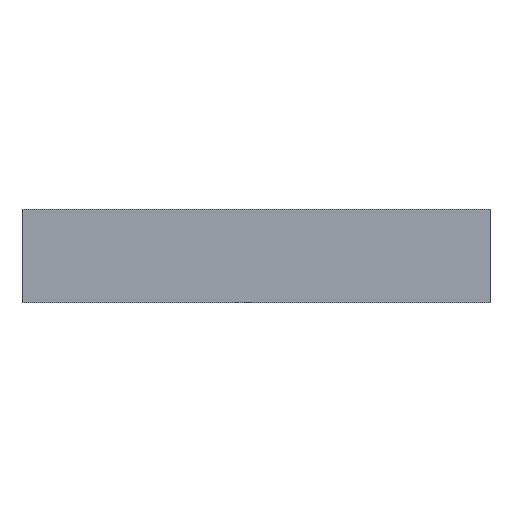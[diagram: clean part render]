
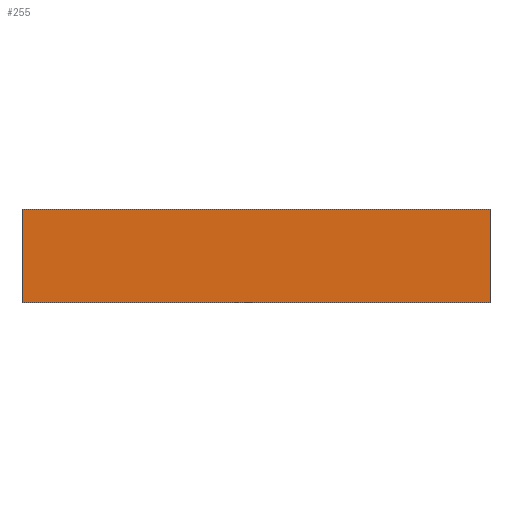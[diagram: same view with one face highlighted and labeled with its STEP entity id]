
A CAD part, front view. The second image highlights one B-rep face of the part: STEP entity #255.
In plain terms, the highlighted planar face has unit normal (0, -1, 0).
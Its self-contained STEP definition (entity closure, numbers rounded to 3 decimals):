
#39 = EDGE_CURVE('',#40,#42,#44,.T.);
#40 = VERTEX_POINT('',#41);
#41 = CARTESIAN_POINT('',(-34.,-9.75,49.4));
#42 = VERTEX_POINT('',#43);
#43 = CARTESIAN_POINT('',(-34.,-9.75,49.6));
#44 = SURFACE_CURVE('',#45,(#49,#61),.PCURVE_S1.);
#45 = LINE('',#46,#47);
#46 = CARTESIAN_POINT('',(-34.,-9.75,49.4));
#47 = VECTOR('',#48,1.);
#48 = DIRECTION('',(0.,0.,1.));
#49 = PCURVE('',#50,#55);
#50 = PLANE('',#51);
#51 = AXIS2_PLACEMENT_3D('',#52,#53,#54);
#52 = CARTESIAN_POINT('',(-34.,-9.75,49.4));
#53 = DIRECTION('',(1.,0.,0.));
#54 = DIRECTION('',(0.,0.,1.));
#55 = DEFINITIONAL_REPRESENTATION('',(#56),#60);
#56 = LINE('',#57,#58);
#57 = CARTESIAN_POINT('',(0.,0.));
#58 = VECTOR('',#59,1.);
#59 = DIRECTION('',(1.,0.));
#60 = ( GEOMETRIC_REPRESENTATION_CONTEXT(2) 
PARAMETRIC_REPRESENTATION_CONTEXT() REPRESENTATION_CONTEXT('2D SPACE',''
  ) );
#61 = PCURVE('',#62,#67);
#62 = PLANE('',#63);
#63 = AXIS2_PLACEMENT_3D('',#64,#65,#66);
#64 = CARTESIAN_POINT('',(-34.,-9.75,49.4));
#65 = DIRECTION('',(0.,1.,0.));
#66 = DIRECTION('',(0.,0.,1.));
#67 = DEFINITIONAL_REPRESENTATION('',(#68),#72);
#68 = LINE('',#69,#70);
#69 = CARTESIAN_POINT('',(0.,0.));
#70 = VECTOR('',#71,1.);
#71 = DIRECTION('',(1.,0.));
#72 = ( GEOMETRIC_REPRESENTATION_CONTEXT(2) 
PARAMETRIC_REPRESENTATION_CONTEXT() REPRESENTATION_CONTEXT('2D SPACE',''
  ) );
#90 = PLANE('',#91);
#91 = AXIS2_PLACEMENT_3D('',#92,#93,#94);
#92 = CARTESIAN_POINT('',(-34.,-9.75,49.4));
#93 = DIRECTION('',(0.,0.,1.));
#94 = DIRECTION('',(1.,0.,0.));
#144 = PLANE('',#145);
#145 = AXIS2_PLACEMENT_3D('',#146,#147,#148);
#146 = CARTESIAN_POINT('',(-34.,-9.75,49.6));
#147 = DIRECTION('',(0.,0.,1.));
#148 = DIRECTION('',(1.,0.,0.));
#159 = EDGE_CURVE('',#160,#162,#164,.T.);
#160 = VERTEX_POINT('',#161);
#161 = CARTESIAN_POINT('',(-33.,-9.75,49.4));
#162 = VERTEX_POINT('',#163);
#163 = CARTESIAN_POINT('',(-33.,-9.75,49.6));
#164 = SURFACE_CURVE('',#165,(#169,#181),.PCURVE_S1.);
#165 = LINE('',#166,#167);
#166 = CARTESIAN_POINT('',(-33.,-9.75,49.4));
#167 = VECTOR('',#168,1.);
#168 = DIRECTION('',(0.,0.,1.));
#169 = PCURVE('',#170,#175);
#170 = PLANE('',#171);
#171 = AXIS2_PLACEMENT_3D('',#172,#173,#174);
#172 = CARTESIAN_POINT('',(-33.,-9.75,49.4));
#173 = DIRECTION('',(1.,0.,0.));
#174 = DIRECTION('',(0.,0.,1.));
#175 = DEFINITIONAL_REPRESENTATION('',(#176),#180);
#176 = LINE('',#177,#178);
#177 = CARTESIAN_POINT('',(0.,0.));
#178 = VECTOR('',#179,1.);
#179 = DIRECTION('',(1.,0.));
#180 = ( GEOMETRIC_REPRESENTATION_CONTEXT(2) 
PARAMETRIC_REPRESENTATION_CONTEXT() REPRESENTATION_CONTEXT('2D SPACE',''
  ) );
#181 = PCURVE('',#62,#182);
#182 = DEFINITIONAL_REPRESENTATION('',(#183),#187);
#183 = LINE('',#184,#185);
#184 = CARTESIAN_POINT('',(0.,1.));
#185 = VECTOR('',#186,1.);
#186 = DIRECTION('',(1.,0.));
#187 = ( GEOMETRIC_REPRESENTATION_CONTEXT(2) 
PARAMETRIC_REPRESENTATION_CONTEXT() REPRESENTATION_CONTEXT('2D SPACE',''
  ) );
#255 = ADVANCED_FACE('',(#256),#62,.F.);
#256 = FACE_BOUND('',#257,.F.);
#257 = EDGE_LOOP('',(#258,#279,#280,#301));
#258 = ORIENTED_EDGE('',*,*,#259,.F.);
#259 = EDGE_CURVE('',#40,#160,#260,.T.);
#260 = SURFACE_CURVE('',#261,(#265,#272),.PCURVE_S1.);
#261 = LINE('',#262,#263);
#262 = CARTESIAN_POINT('',(-34.,-9.75,49.4));
#263 = VECTOR('',#264,1.);
#264 = DIRECTION('',(1.,0.,0.));
#265 = PCURVE('',#62,#266);
#266 = DEFINITIONAL_REPRESENTATION('',(#267),#271);
#267 = LINE('',#268,#269);
#268 = CARTESIAN_POINT('',(0.,0.));
#269 = VECTOR('',#270,1.);
#270 = DIRECTION('',(0.,1.));
#271 = ( GEOMETRIC_REPRESENTATION_CONTEXT(2) 
PARAMETRIC_REPRESENTATION_CONTEXT() REPRESENTATION_CONTEXT('2D SPACE',''
  ) );
#272 = PCURVE('',#90,#273);
#273 = DEFINITIONAL_REPRESENTATION('',(#274),#278);
#274 = LINE('',#275,#276);
#275 = CARTESIAN_POINT('',(0.,0.));
#276 = VECTOR('',#277,1.);
#277 = DIRECTION('',(1.,0.));
#278 = ( GEOMETRIC_REPRESENTATION_CONTEXT(2) 
PARAMETRIC_REPRESENTATION_CONTEXT() REPRESENTATION_CONTEXT('2D SPACE',''
  ) );
#279 = ORIENTED_EDGE('',*,*,#39,.T.);
#280 = ORIENTED_EDGE('',*,*,#281,.T.);
#281 = EDGE_CURVE('',#42,#162,#282,.T.);
#282 = SURFACE_CURVE('',#283,(#287,#294),.PCURVE_S1.);
#283 = LINE('',#284,#285);
#284 = CARTESIAN_POINT('',(-34.,-9.75,49.6));
#285 = VECTOR('',#286,1.);
#286 = DIRECTION('',(1.,0.,0.));
#287 = PCURVE('',#62,#288);
#288 = DEFINITIONAL_REPRESENTATION('',(#289),#293);
#289 = LINE('',#290,#291);
#290 = CARTESIAN_POINT('',(0.2,0.));
#291 = VECTOR('',#292,1.);
#292 = DIRECTION('',(0.,1.));
#293 = ( GEOMETRIC_REPRESENTATION_CONTEXT(2) 
PARAMETRIC_REPRESENTATION_CONTEXT() REPRESENTATION_CONTEXT('2D SPACE',''
  ) );
#294 = PCURVE('',#144,#295);
#295 = DEFINITIONAL_REPRESENTATION('',(#296),#300);
#296 = LINE('',#297,#298);
#297 = CARTESIAN_POINT('',(0.,0.));
#298 = VECTOR('',#299,1.);
#299 = DIRECTION('',(1.,0.));
#300 = ( GEOMETRIC_REPRESENTATION_CONTEXT(2) 
PARAMETRIC_REPRESENTATION_CONTEXT() REPRESENTATION_CONTEXT('2D SPACE',''
  ) );
#301 = ORIENTED_EDGE('',*,*,#159,.F.);
